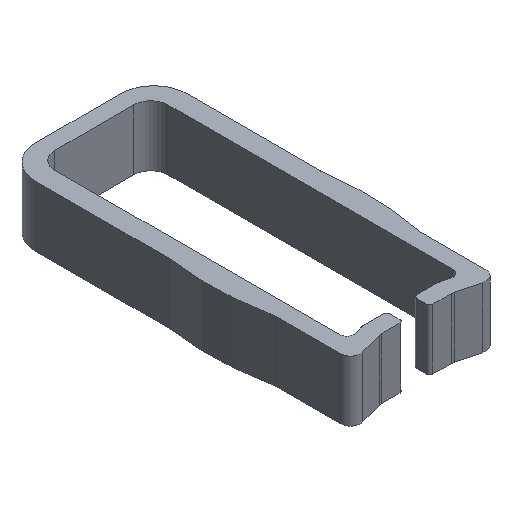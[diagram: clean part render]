
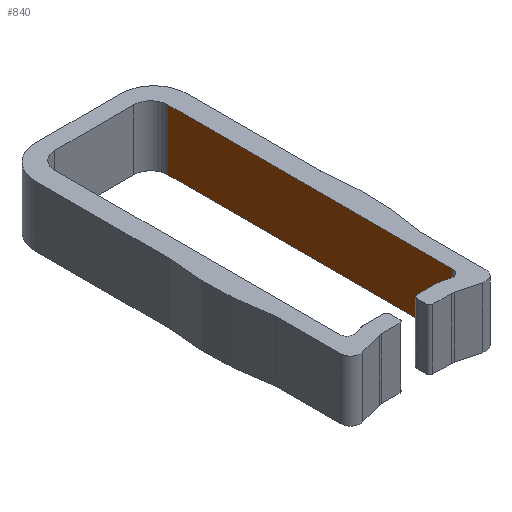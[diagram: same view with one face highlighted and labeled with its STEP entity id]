
A CAD part, isometric view. The second image highlights one B-rep face of the part: STEP entity #840.
In plain terms, the highlighted planar face has unit normal (-1, 0, 0).
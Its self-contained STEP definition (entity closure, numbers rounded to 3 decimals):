
#49 = ORIENTED_EDGE ( 'NONE', *, *, #1325, .T. ) ;
#57 = ORIENTED_EDGE ( 'NONE', *, *, #498, .F. ) ;
#61 = DIRECTION ( 'NONE',  ( 0., 0., -1. ) ) ;
#73 = VECTOR ( 'NONE', #1285, 1000. ) ;
#79 = DIRECTION ( 'NONE',  ( 1., 0., 0. ) ) ;
#124 = VERTEX_POINT ( 'NONE', #851 ) ;
#155 = CARTESIAN_POINT ( 'NONE',  ( 5.6, -14.72, 3. ) ) ;
#265 = CARTESIAN_POINT ( 'NONE',  ( 5.6, 13.445, 3. ) ) ;
#280 = VERTEX_POINT ( 'NONE', #155 ) ;
#281 = VECTOR ( 'NONE', #535, 1000. ) ;
#310 = VERTEX_POINT ( 'NONE', #1125 ) ;
#316 = LINE ( 'NONE', #405, #281 ) ;
#382 = VECTOR ( 'NONE', #61, 1000. ) ;
#397 = ORIENTED_EDGE ( 'NONE', *, *, #921, .F. ) ;
#405 = CARTESIAN_POINT ( 'NONE',  ( 5.6, 13.445, 3. ) ) ;
#407 = EDGE_CURVE ( 'NONE', #473, #124, #1206, .T. ) ;
#435 = LINE ( 'NONE', #465, #1227 ) ;
#465 = CARTESIAN_POINT ( 'NONE',  ( 5.6, -14.72, 3. ) ) ;
#473 = VERTEX_POINT ( 'NONE', #265 ) ;
#498 = EDGE_CURVE ( 'NONE', #473, #280, #316, .T. ) ;
#504 = DIRECTION ( 'NONE',  ( 0., 1., 0. ) ) ;
#523 = EDGE_LOOP ( 'NONE', ( #49, #397, #57, #549 ) ) ;
#535 = DIRECTION ( 'NONE',  ( 0., -1., 0. ) ) ;
#549 = ORIENTED_EDGE ( 'NONE', *, *, #407, .T. ) ;
#556 = CARTESIAN_POINT ( 'NONE',  ( 5.6, -10.278, 3. ) ) ;
#572 = LINE ( 'NONE', #1187, #73 ) ;
#689 = PLANE ( 'NONE',  #907 ) ;
#800 = FACE_OUTER_BOUND ( 'NONE', #523, .T. ) ;
#840 = ADVANCED_FACE ( 'NONE', ( #800 ), #689, .F. ) ;
#851 = CARTESIAN_POINT ( 'NONE',  ( 5.6, 13.445, -3. ) ) ;
#883 = CARTESIAN_POINT ( 'NONE',  ( 5.6, 13.445, 3. ) ) ;
#907 = AXIS2_PLACEMENT_3D ( 'NONE', #556, #79, #504 ) ;
#921 = EDGE_CURVE ( 'NONE', #280, #310, #435, .T. ) ;
#1047 = DIRECTION ( 'NONE',  ( 0., 0., -1. ) ) ;
#1125 = CARTESIAN_POINT ( 'NONE',  ( 5.6, -14.72, -3. ) ) ;
#1187 = CARTESIAN_POINT ( 'NONE',  ( 5.6, -10.278, -3. ) ) ;
#1206 = LINE ( 'NONE', #883, #382 ) ;
#1227 = VECTOR ( 'NONE', #1047, 1000. ) ;
#1285 = DIRECTION ( 'NONE',  ( 0., -1., 0. ) ) ;
#1325 = EDGE_CURVE ( 'NONE', #124, #310, #572, .T. ) ;
